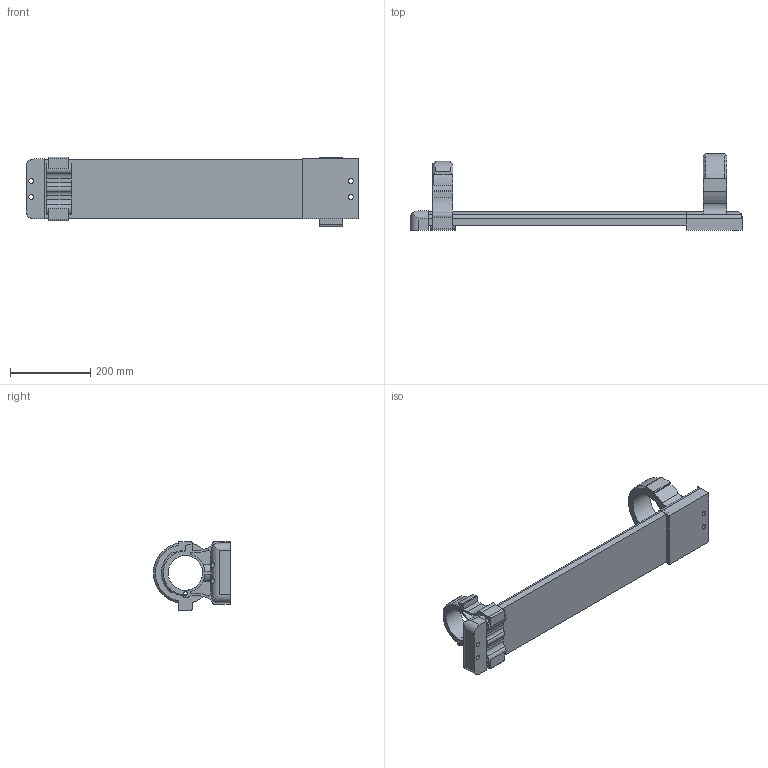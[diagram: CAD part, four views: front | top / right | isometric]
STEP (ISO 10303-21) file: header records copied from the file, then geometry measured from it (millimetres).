
FILE_DESCRIPTION( ( 'STEP AP214' ), '1' );
FILE_NAME( 'e:/temp/worker_33/temp/exporttempdir_6924_252_OOc7l/format_0/ROBOWAY.stp', '2021-05-04T07:44:37', ( 'License CC BY-ND 4.0' ), ( 'CADENAS' ), ' ', 'PARTsolutions', ' ' );
FILE_SCHEMA( ( 'AUTOMOTIVE_DESIGN { 1 0 10303 214 1 1 1 1 }' ) );
Length unit declared in the file: millimetre
Products named in the file (5): 43500639 RW-70 550L; _RWM-70; _RWR-70; _ST-RAIL 70-550; _RWF-70
Assembly tree (6 placements, depth 2):
  43500639 RW-70 550L
    _RWM-70
    _RWR-70
    _ST-RAIL 70-550  x2
    _RWF-70  x2
Bounding box: 830 x 192.3 x 174.98 mm (x, y, z)
Volume: 9947233.4 mm3; surface area: 864836.5 mm2
Topology: 6 solids, 6 shells, 260 faces, 729 edges, 487 vertices
Faces by surface type: cylinder 129, plane 125, cone 6
Full cylindrical faces by diameter (mm): 9 x1, 12 x6, 17 x1, 18 x6, 24 x2, 35 x1, 86.4 x1, 109 x2
Entity records: 8752 total; most frequent: CARTESIAN_POINT 1722, DIRECTION 1136, ORIENTED_EDGE 1092, EDGE_CURVE 546, AXIS2_PLACEMENT_3D 410, VERTEX_POINT 374, LINE 316, VECTOR 316
